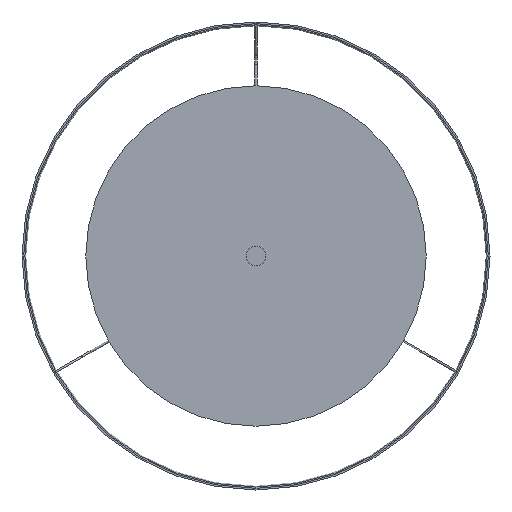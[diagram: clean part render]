
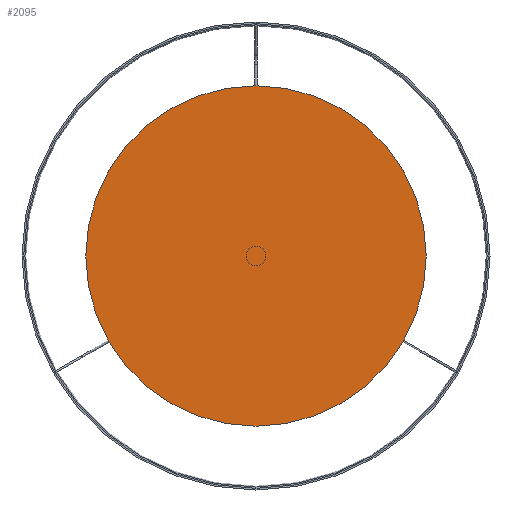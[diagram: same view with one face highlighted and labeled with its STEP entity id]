
A CAD part, front view. The second image highlights one B-rep face of the part: STEP entity #2095.
In plain terms, the highlighted planar face has unit normal (0, -1, 0).
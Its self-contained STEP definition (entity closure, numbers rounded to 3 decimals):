
#183=PLANE('',#2366);
#300=FACE_OUTER_BOUND('',#472,.T.);
#472=EDGE_LOOP('',(#1790));
#884=CIRCLE('',#2364,200.);
#1060=VERTEX_POINT('',#3584);
#1313=EDGE_CURVE('',#1060,#1060,#884,.T.);
#1790=ORIENTED_EDGE('',*,*,#1313,.F.);
#2095=ADVANCED_FACE('',(#300),#183,.F.);
#2364=AXIS2_PLACEMENT_3D('',#3586,#2938,#2939);
#2366=AXIS2_PLACEMENT_3D('',#3588,#2942,#2943);
#2938=DIRECTION('center_axis',(0.,1.,0.));
#2939=DIRECTION('ref_axis',(1.,0.,0.));
#2942=DIRECTION('center_axis',(0.,1.,0.));
#2943=DIRECTION('ref_axis',(1.,0.,0.));
#3584=CARTESIAN_POINT('',(-200.,0.,0.));
#3586=CARTESIAN_POINT('Origin',(0.,0.,0.));
#3588=CARTESIAN_POINT('Origin',(0.,0.,0.));
